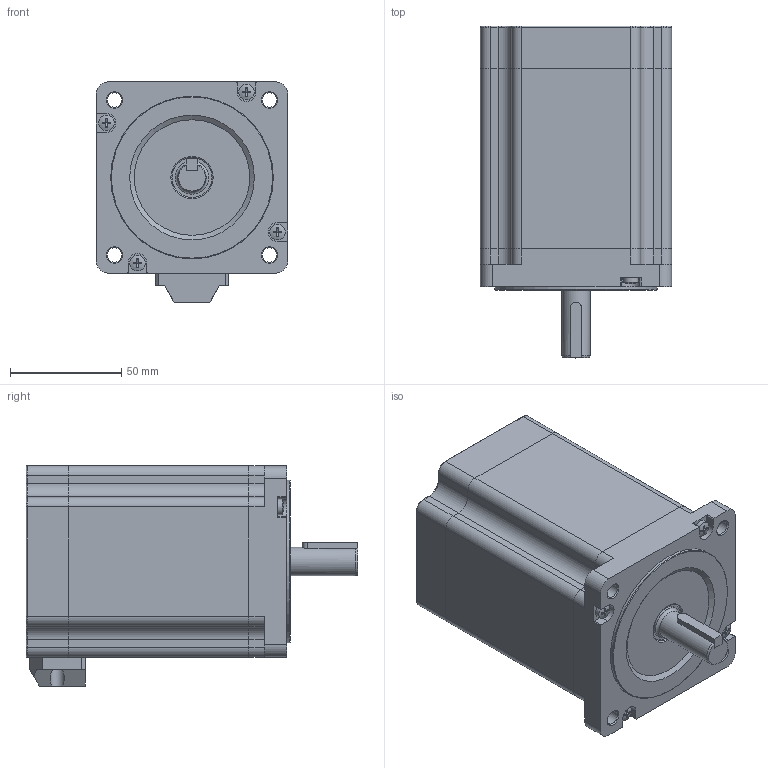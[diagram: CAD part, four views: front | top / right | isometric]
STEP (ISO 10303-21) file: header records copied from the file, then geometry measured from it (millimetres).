
FILE_DESCRIPTION( ('This file contains a STEP AP42 implementation' ,'as created by ZW3D STEP Interface translator.' ,'') ,'2;1' );
FILE_NAME( 'AM510A-86A0850-0000.stp' ,'24 723. 92524', (''), ('ZWCAD Software Co.'), 'Version 1.0', 'ZW3D to STEP translator', '' );
FILE_SCHEMA(('AUTOMOTIVE_DESIGN { 1 0 10303 214 1 1 1 1 }'));
Length unit declared in the file: millimetre
Products named in the file (6): 0; 86HS118TF055X-03; 86HS118TF055X-03(默认); 揤盄啣; 蹟隊 GB_T 823-M4x40_2; 蹟隊 GB_T 823-M3x6_2
Assembly tree (8 placements, depth 2):
  0
  86HS118TF055X-03
    86HS118TF055X-03(默认)
    揤盄啣
    蹟隊 GB_T 823-M4x40_2  x4
    蹟隊 GB_T 823-M3x6_2  x2
Bounding box: 85.9 x 149 x 98.9 mm (x, y, z)
Volume: 792066.3 mm3; surface area: 88550.2 mm2
Topology: 11 solids, 11 shells, 362 faces, 926 edges, 592 vertices
Faces by surface type: plane 151, cylinder 137, cone 46, torus 21, sphere 6, bspline 1
Full cylindrical faces by diameter (mm): 2.5 x4, 3 x4, 3.3 x8, 3.5 x2, 4 x8, 4.5 x4, 5.5 x2, 6.3 x2, 6.5 x4, 7 x4, 12.7 x1, 15 x2, 18 x2, 73 x1
Entity records: 8745 total; most frequent: CARTESIAN_POINT 1574, DIRECTION 1479, ORIENTED_EDGE 1358, EDGE_CURVE 679, AXIS2_PLACEMENT_3D 560, VERTEX_POINT 437, VECTOR 359, LINE 359
